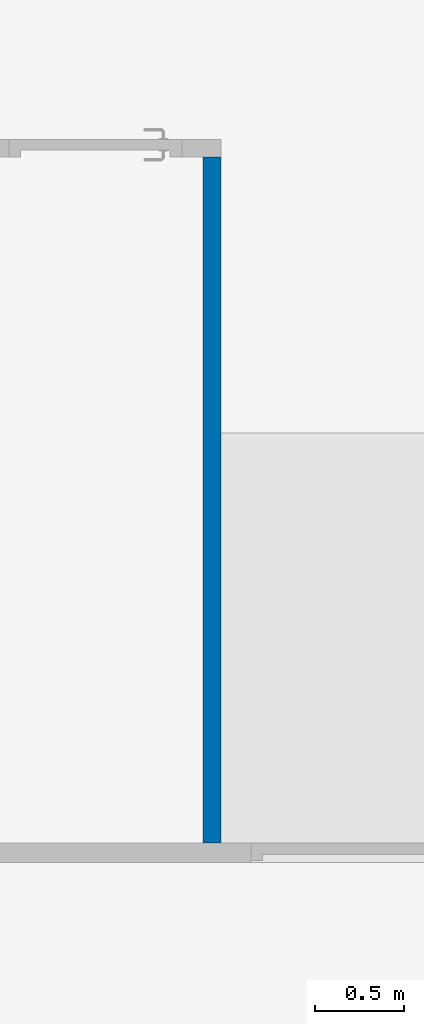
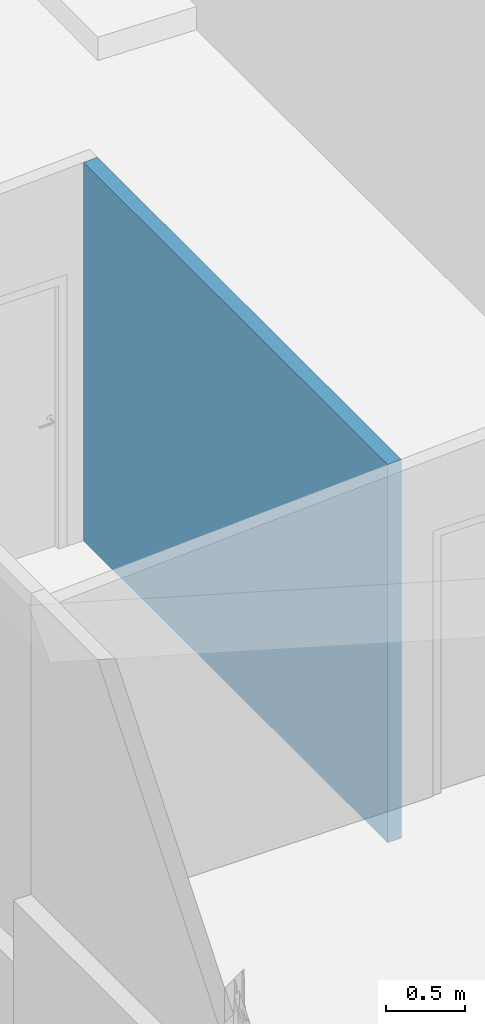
# One storey, part 139 of 301: 1 wall.
"""IFC2X3 building model written with IfcOpenShell, lengths in millimetres."""

from ifc_helpers import new_model, entity, si_unit, converted_unit, derived_unit, money_unit, direction, frame, origin_with_axes, place, context, subcontext, project, spatial, faceted_brep, material, type_object, element, save


model = new_model("IFC2X3")

# Units and contexts
model_context = context("Model", 3, precision=0.01, world=origin_with_axes(), true_north=direction((0.0, 1.0)))
body_context = subcontext(model_context, "Body", "Model", "MODEL_VIEW")
ifc_project = project(units=[si_unit("LENGTHUNIT", "METRE", prefix="MILLI"), si_unit("AREAUNIT", "SQUARE_METRE"), si_unit("VOLUMEUNIT", "CUBIC_METRE"), converted_unit("PLANEANGLEUNIT", "DEGREE", entity("IfcPlaneAngleMeasure", 0.0174532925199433), si_unit("PLANEANGLEUNIT", "RADIAN"), dimensions=[0, 0, 0, 0, 0, 0, 0]), money_unit("EUR"), converted_unit("TIMEUNIT", "Year", entity("IfcTimeMeasure", 31557600.0), si_unit("TIMEUNIT", "SECOND"), dimensions=[0, 0, 1, 0, 0, 0, 0]), si_unit("MASSUNIT", "GRAM", prefix="KILO"), si_unit("THERMODYNAMICTEMPERATUREUNIT", "DEGREE_CELSIUS"), si_unit("LUMINOUSINTENSITYUNIT", "LUMEN"), si_unit("ENERGYUNIT", "JOULE", prefix="MEGA"), derived_unit("THERMALCONDUCTANCEUNIT", [(si_unit("POWERUNIT", "WATT"), 1), (si_unit("LENGTHUNIT", "METRE"), -1), (si_unit("THERMODYNAMICTEMPERATUREUNIT", "KELVIN"), -1)]), derived_unit("SPECIFICHEATCAPACITYUNIT", [(si_unit("ENERGYUNIT", "JOULE"), 1), (si_unit("MASSUNIT", "GRAM", prefix="KILO"), -1), (si_unit("THERMODYNAMICTEMPERATUREUNIT", "KELVIN"), -1)]), derived_unit("MASSDENSITYUNIT", [(si_unit("MASSUNIT", "GRAM", prefix="KILO"), 1), (si_unit("VOLUMEUNIT", "CUBIC_METRE"), -1)])], contexts=[model_context])

# Site, building, storey
site_placement = place(None, frame((0.0, 0.0, 8650.0), z_axis=(0.0, 0.0, 1.0), x_axis=(1.0, 0.0, 0.0)))
site = spatial("IfcSite", under=ifc_project, at=site_placement, Name="43301:001:0844", CompositionType="ELEMENT")
building_placement = place(site_placement, origin_with_axes())
building = spatial("IfcBuilding", under=site, at=building_placement, Name="Kuressaare Ametikooli tuulikute mehaanikute õppekorpus", CompositionType="ELEMENT")
storey_placement = place(building_placement, origin_with_axes())
storey = spatial("IfcBuildingStorey", under=building, at=storey_placement, Name="1.korrus", CompositionType="ELEMENT", Elevation=0.0)

# Wall
ifc_material = material(Name="GENEERILINE - KONSTRUKTRIOON")
wall_type = type_object("IfcWallType", Name="GENEERILINE - KONSTRUKTRIOON 100", PredefinedType="NOTDEFINED")
wall_placement = place(storey_placement, frame((84558.83836746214, 63168.61006674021, -330.0), z_axis=(0.0, 0.0, 1.0), x_axis=(0.0, 1.0, 0.0)))
element("IfcWall", 1, at=wall_placement, inside=storey, type_object=wall_type, material=ifc_material, Name="SS-XX", context=body_context, shape_type="Brep", body=[
    faceted_brep([(0.0, 99.99999999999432, 0.0), (3849.571156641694, 99.99999999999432, 0.0), (3849.571156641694, 0.0, 0.0), (0.0, 0.0, 0.0), (3849.571156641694, 99.99999999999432, 2924.226489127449), (0.0, 99.99999999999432, 2923.24490693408), (3849.571156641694, 0.0, 2929.642235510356), (0.0, 0.0, 2928.660653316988)], [[[0, 1, 2, 3]], [[4, 1, 0, 5]], [[6, 2, 1, 4]], [[3, 2, 6, 7]], [[5, 0, 3, 7]], [[4, 5, 7, 6]]]),
])

save(model, "model.ifc")
